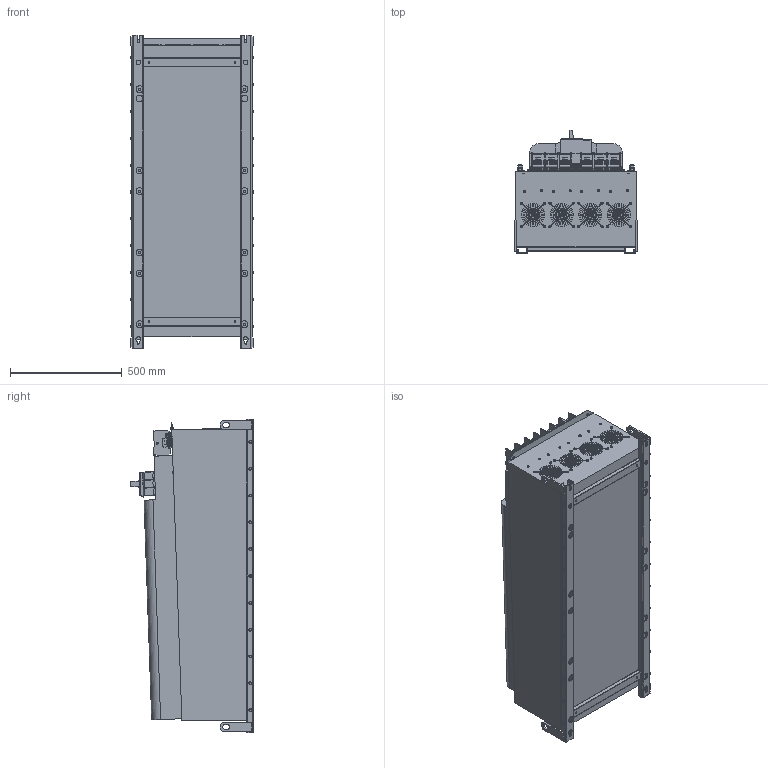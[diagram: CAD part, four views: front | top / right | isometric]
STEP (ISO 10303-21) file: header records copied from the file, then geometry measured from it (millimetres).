
FILE_DESCRIPTION(/* description */ ('raw material description'),/* implementation_level */ '2;1');
FILE_NAME(/* name */ 'C:\Users\Erika.Jenzer\Desktop\STEP\FN344X_FN345X-E0.stp',/* time_stamp */ '2019-06-04T10:25:24+02:00',/* author */ ('erika.jenzer'),/* organization */ ('Schaffner EMV AG'),/* preprocessor_version */ 'ST-DEVELOPER v16.5',/* originating_system */ 'Autodesk Inventor 2017',/* authorisation */ '');
FILE_SCHEMA (('AUTOMOTIVE_DESIGN { 1 0 10303 214 3 1 1 }'));
Products named in the file (1): FN344X_FN345X-E0
Bounding box: 550.5 x 551.39 x 1400 mm (x, y, z)
Volume: 81167.5 mm3; surface area: 4428908.7 mm2
Topology: 96 solids, 97 shells, 4139 faces, 10550 edges, 6770 vertices
Faces by surface type: plane 2426, cylinder 863, cone 370, bspline 284, torus 176, sphere 20
Full cylindrical faces by diameter (mm): 0.8 x3, 1.1 x15, 1.5 x8, 2 x4, 2.9 x8, 3.7 x8, 3.9 x24, 4 x40, 4.1 x1, 4.2 x18, 4.5 x4, 5 x13, 6 x52, 6.717 x18, 7 x4, 7.718 x18, 8 x22, 8.1 x18, 9.17 x18, 9.8 x12, 10 x24, 11 x2, 12 x10, 13 x24, 20 x2, 24 x2, 30 x14, 31.402 x12
Entity records: 152297 total; most frequent: CARTESIAN_POINT 54150, ORIENTED_EDGE 19488, DIRECTION 18752, EDGE_CURVE 9691, AXIS2_PLACEMENT_3D 6643, VERTEX_POINT 6565, LINE 5466, VECTOR 5466
